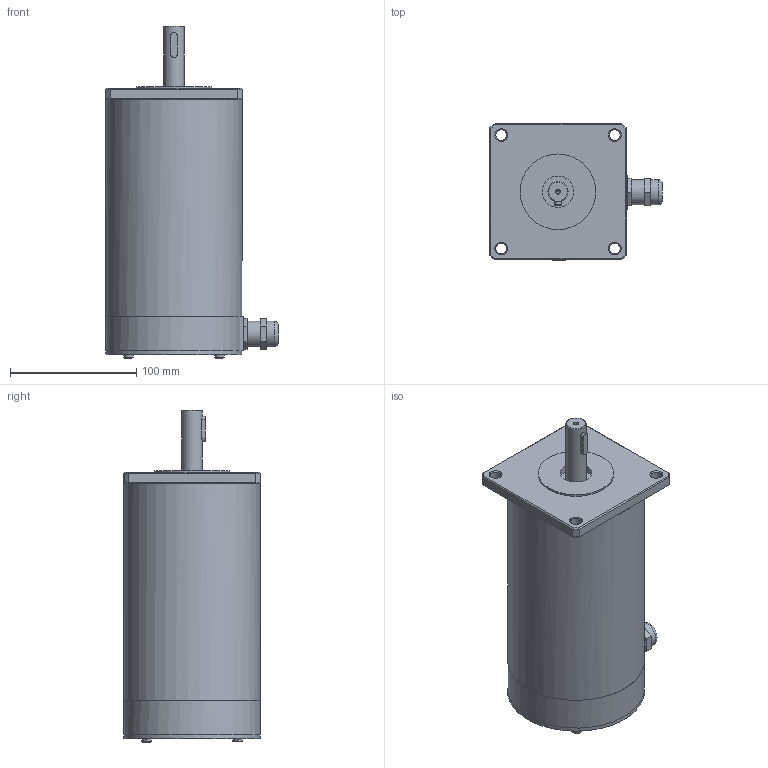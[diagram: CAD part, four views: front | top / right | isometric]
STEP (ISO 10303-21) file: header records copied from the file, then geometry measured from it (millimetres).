
FILE_DESCRIPTION((''),'2;1');
FILE_NAME('C:\Users\Reinhard\Documents\Inventor\Testschrittmotor\SM107\SM 107.3-KV.stp','2014-02-14T16:49:50',('Reinhard'),(''),'Autodesk Inventor 2012','Autodesk Inventor 2012','');
FILE_SCHEMA(('CONFIG_CONTROL_DESIGN'));
Length unit declared in the file: millimetre
Products named in the file (1): SM 107
Bounding box: 136.57 x 108.07 x 263.1 mm (x, y, z)
Volume: 299000.9 mm3; surface area: 187845.9 mm2
Topology: 2 solids, 6 shells, 170 faces, 385 edges, 238 vertices
Faces by surface type: plane 90, cylinder 37, cone 28, torus 9, bspline 6
Full cylindrical faces by diameter (mm): 3 x1, 3.571 x4, 4 x4, 8.5 x4, 12 x1, 13 x2, 15 x1, 16 x1, 18.376 x1, 20 x3, 25 x1, 60 x1, 95 x1, 96 x1, 99.472 x1, 104.734 x1, 108 x1, 108.146 x1
Entity records: 4932 total; most frequent: CARTESIAN_POINT 1203, DIRECTION 775, ORIENTED_EDGE 640, AXIS2_PLACEMENT_3D 331, EDGE_CURVE 320, EDGE_LOOP 252, VERTEX_POINT 224, FACE_OUTER_BOUND 170
